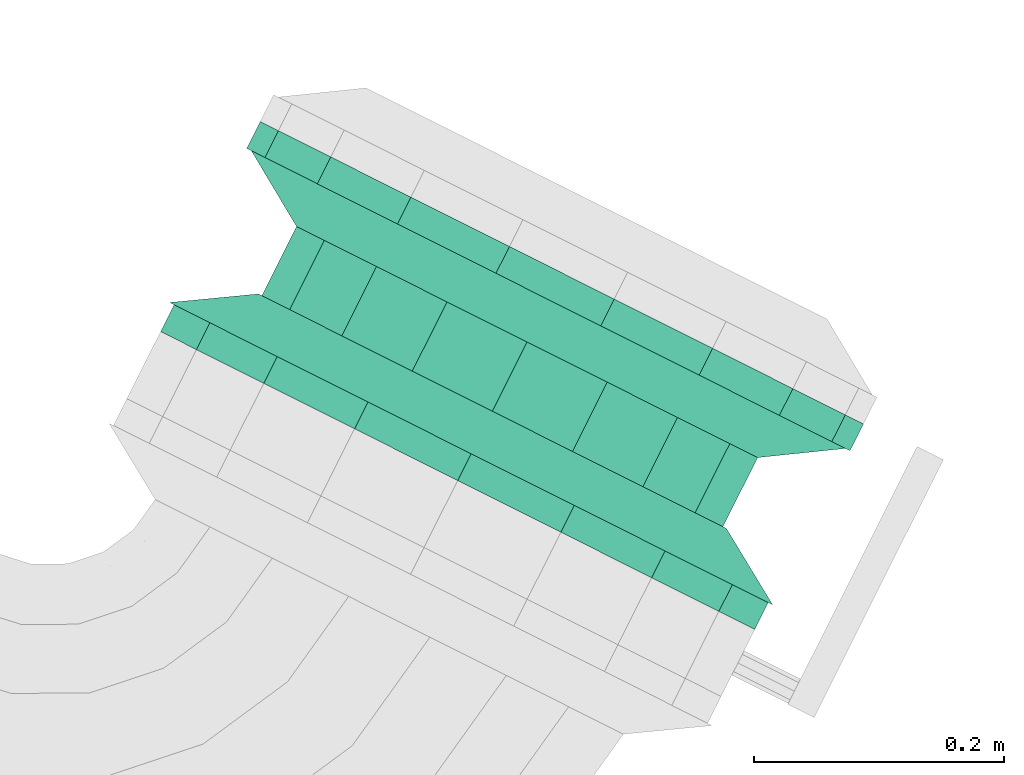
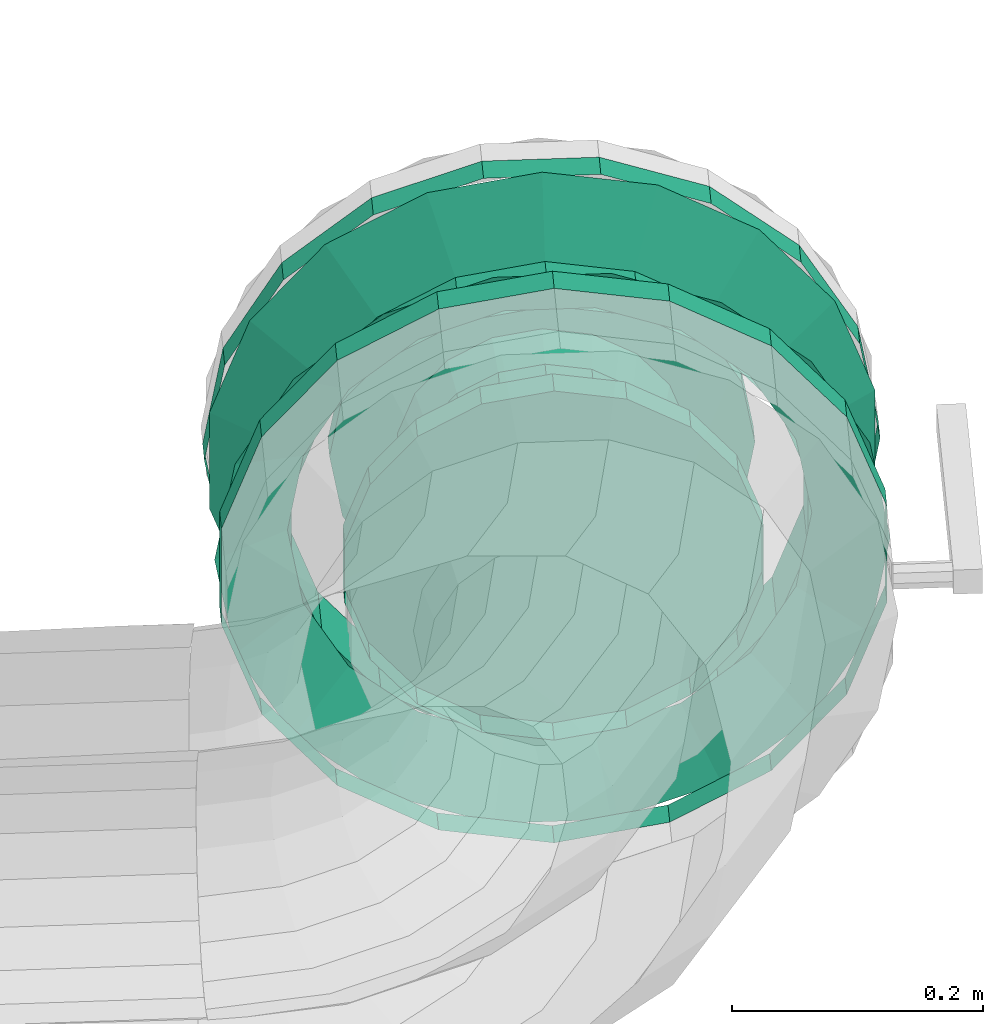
# One storey, part 55 of 152: 2 flow fittings, 1 flow segment.
"""IFC2X3 building model written with IfcOpenShell, lengths in metres."""

from ifc_helpers import new_model, si_unit, derived_unit, direction, frame, origin, place, context, subcontext, project, spatial, face_set, surface_model, source, transform, mapped, material, type_object, type_shapes, element, save


model = new_model("IFC2X3")

# Units and contexts
model_context = context("Model", 3, precision=5.2338327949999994e-05, world=origin(), true_north=direction((0.0, 1.0)))
body_context = subcontext(model_context, "Body", "Model", "MODEL_VIEW")
ifc_project = project(units=[si_unit("LENGTHUNIT", "METRE"), si_unit("AREAUNIT", "SQUARE_METRE"), si_unit("VOLUMEUNIT", "CUBIC_METRE"), si_unit("MASSUNIT", "GRAM", prefix="KILO"), si_unit("PLANEANGLEUNIT", "RADIAN"), derived_unit("THERMALTRANSMITTANCEUNIT", [(si_unit("MASSUNIT", "GRAM", prefix="KILO"), 1), (si_unit("THERMODYNAMICTEMPERATUREUNIT", "KELVIN"), -1), (si_unit("TIMEUNIT", "SECOND"), -3)])], contexts=[model_context])

# Site, building, storey
site_placement = place(None, frame((0.0, 0.0, 0.0), z_axis=(0.0, 0.0, 1.0), x_axis=(0.8939966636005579, -0.4480736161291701, 0.0)))
site = spatial("IfcSite", under=ifc_project, at=site_placement, Name="Default", CompositionType="ELEMENT")
building_placement = place(site_placement, origin())
building = spatial("IfcBuilding", under=site, at=building_placement, CompositionType="ELEMENT")
storey_placement = place(building_placement, frame((0.0, 0.0, 2.7499999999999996)))
storey = spatial("IfcBuildingStorey", under=building, at=storey_placement, Name="1. Obergeschoss", CompositionType="ELEMENT", Elevation=2.7499999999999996)

# Flow fitting
ifc_material = material(Name="IfcSurfaceStyle #9317")
distribution_element_type_1 = type_object("IfcDistributionElementType", Name="Flansch 303318:Flansch 303318", material=ifc_material)
shared_shape_1 = source(origin(), body_context, "Body", "SurfaceModel", [
    surface_model("IfcFaceBasedSurfaceModel", [(35.004528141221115, 9.184950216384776, 4.449999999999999), (34.9670598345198, 9.184950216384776, 4.456606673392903), (34.96434077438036, 9.222950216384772, 4.449136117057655), (35.00452814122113, 9.222950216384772, 4.442049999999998), (34.93411075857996, 9.184950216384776, 4.475629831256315), (34.929000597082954, 9.222950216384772, 4.46953977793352), (34.909655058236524, 9.184950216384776, 4.504774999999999), (34.902770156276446, 9.222950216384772, 4.5008), (34.896642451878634, 9.184950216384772, 4.54052684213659), (34.888813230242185, 9.222950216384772, 4.539146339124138), (34.896642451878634, 9.184950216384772, 4.578573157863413), (34.888813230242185, 9.222950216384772, 4.579953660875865), (34.90965505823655, 9.184950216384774, 4.614325), (34.902770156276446, 9.222950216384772, 4.6183), (34.934110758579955, 9.184950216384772, 4.643470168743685), (34.92900059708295, 9.22295021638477, 4.649560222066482), (34.967059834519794, 9.184950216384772, 4.6624933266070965), (34.964340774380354, 9.222950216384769, 4.669963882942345), (35.004528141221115, 9.184950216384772, 4.6691), (35.004528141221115, 9.222950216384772, 4.67705), (35.041996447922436, 9.184950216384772, 4.662493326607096), (35.044715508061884, 9.222950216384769, 4.669963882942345), (35.07494552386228, 9.184950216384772, 4.643470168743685), (35.080055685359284, 9.222950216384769, 4.649560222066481), (35.09940122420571, 9.184950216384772, 4.614324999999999), (35.106286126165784, 9.222950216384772, 4.6183), (35.11241383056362, 9.184950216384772, 4.578573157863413), (35.12024305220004, 9.222950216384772, 4.579953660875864), (35.1124138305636, 9.184950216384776, 4.540526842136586), (35.12024305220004, 9.222950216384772, 4.539146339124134), (35.09940122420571, 9.184950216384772, 4.504774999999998), (35.10628612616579, 9.222950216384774, 4.500799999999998), (35.07494552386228, 9.184950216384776, 4.4756298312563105), (35.080055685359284, 9.22295021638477, 4.469539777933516), (35.04199644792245, 9.184950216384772, 4.456606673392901), (35.044715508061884, 9.222950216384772, 4.4491361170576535), (34.83452814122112, 9.222950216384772, 4.5595500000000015), (34.844780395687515, 9.222950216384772, 4.617693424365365), (34.844780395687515, 9.246950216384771, 4.617693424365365), (34.83452814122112, 9.246950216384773, 4.5595500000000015), (34.874300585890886, 9.22295021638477, 4.668823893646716), (34.874300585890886, 9.246950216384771, 4.668823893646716), (34.91952814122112, 9.222950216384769, 4.706774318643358), (34.91952814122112, 9.24695021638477, 4.706774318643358), (34.975007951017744, 9.222950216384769, 4.7269673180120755), (34.975007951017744, 9.24695021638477, 4.7269673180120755), (35.0340483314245, 9.222950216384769, 4.726967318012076), (35.0340483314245, 9.24695021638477, 4.7269673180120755), (35.08952814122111, 9.222950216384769, 4.706774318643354), (35.08952814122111, 9.24695021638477, 4.706774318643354), (35.134755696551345, 9.222950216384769, 4.66882389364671), (35.134755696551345, 9.24695021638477, 4.66882389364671), (35.16427588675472, 9.22295021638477, 4.617693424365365), (35.16427588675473, 9.246950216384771, 4.617693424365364), (35.17452814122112, 9.222950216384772, 4.559549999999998), (35.17452814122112, 9.246950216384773, 4.559549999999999), (35.16427588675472, 9.222950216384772, 4.5014065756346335), (35.16427588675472, 9.246950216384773, 4.5014065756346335), (35.13475569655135, 9.222950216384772, 4.4502761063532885), (35.13475569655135, 9.246950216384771, 4.4502761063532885), (35.08952814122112, 9.222950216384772, 4.412325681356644), (35.08952814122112, 9.246950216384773, 4.412325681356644), (35.0340483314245, 9.222950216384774, 4.392132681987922), (35.0340483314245, 9.246950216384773, 4.392132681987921), (34.97500795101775, 9.222950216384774, 4.392132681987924), (34.97500795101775, 9.246950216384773, 4.392132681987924), (34.91952814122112, 9.222950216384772, 4.412325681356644), (34.91952814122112, 9.246950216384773, 4.412325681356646), (34.8743005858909, 9.222950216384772, 4.450276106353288), (34.8743005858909, 9.246950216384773, 4.450276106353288), (34.84478039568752, 9.222950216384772, 4.501406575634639), (34.84478039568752, 9.246950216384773, 4.501406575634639), (35.004528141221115, 9.22295021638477, 4.559549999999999), (35.00452814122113, 9.18495021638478, 4.35), (34.93285782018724, 9.18495021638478, 4.362637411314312), (34.912182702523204, 9.222950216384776, 4.3058329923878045), (35.00452814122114, 9.222950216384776, 4.289549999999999), (34.869831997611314, 9.184950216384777, 4.399025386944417), (34.830975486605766, 9.222950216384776, 4.352718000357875), (34.8230525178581, 9.184950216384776, 4.454775), (34.770701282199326, 9.222950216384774, 4.424550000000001), (34.79816167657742, 9.184950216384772, 4.523162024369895), (34.73863004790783, 9.22295021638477, 4.51266499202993), (34.798161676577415, 9.18495021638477, 4.595937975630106), (34.73863004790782, 9.222950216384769, 4.606435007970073), (34.82305251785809, 9.184950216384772, 4.664325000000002), (34.770701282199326, 9.22295021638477, 4.694550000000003), (34.86983199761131, 9.184950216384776, 4.720074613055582), (34.83097548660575, 9.222950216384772, 4.766381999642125), (34.93285782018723, 9.184950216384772, 4.756462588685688), (34.91218270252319, 9.222950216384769, 4.813267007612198), (35.00452814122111, 9.184950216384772, 4.769100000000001), (35.004528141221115, 9.222950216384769, 4.829550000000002), (35.07619846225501, 9.184950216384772, 4.756462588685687), (35.09687357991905, 9.222950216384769, 4.813267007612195), (35.13922428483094, 9.184950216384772, 4.72007461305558), (35.178080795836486, 9.222950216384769, 4.766381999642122), (35.18600376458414, 9.18495021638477, 4.664324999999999), (35.23835500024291, 9.222950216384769, 4.694549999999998), (35.21089460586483, 9.18495021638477, 4.595937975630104), (35.27042623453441, 9.222950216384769, 4.606435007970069), (35.21089460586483, 9.184950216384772, 4.523162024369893), (35.27042623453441, 9.222950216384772, 4.512664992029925), (35.18600376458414, 9.18495021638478, 4.454774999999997), (35.238355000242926, 9.222950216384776, 4.424549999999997), (35.139224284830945, 9.184950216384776, 4.399025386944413), (35.178080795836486, 9.222950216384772, 4.352718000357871), (35.07619846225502, 9.18495021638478, 4.362637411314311), (35.09687357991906, 9.222950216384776, 4.305832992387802), (34.734528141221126, 9.222950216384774, 4.5595500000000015), (34.75081113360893, 9.22295021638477, 4.651895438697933), (34.75081113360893, 9.246950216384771, 4.651895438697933), (34.734528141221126, 9.246950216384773, 4.559550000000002), (34.797696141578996, 9.22295021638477, 4.733102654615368), (34.797696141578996, 9.246950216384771, 4.733102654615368), (34.8695281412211, 9.222950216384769, 4.793376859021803), (34.8695281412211, 9.24695021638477, 4.793376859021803), (34.95764313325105, 9.222950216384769, 4.825448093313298), (34.95764313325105, 9.24695021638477, 4.825448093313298), (35.051413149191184, 9.222950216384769, 4.825448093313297), (35.051413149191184, 9.246950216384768, 4.825448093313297), (35.13952814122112, 9.222950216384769, 4.793376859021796), (35.13952814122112, 9.24695021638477, 4.793376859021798), (35.211360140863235, 9.22295021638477, 4.7331026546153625), (35.211360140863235, 9.24695021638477, 4.733102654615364), (35.25824514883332, 9.222950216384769, 4.651895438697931), (35.25824514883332, 9.24695021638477, 4.651895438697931), (35.274528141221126, 9.22295021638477, 4.559549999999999), (35.274528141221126, 9.246950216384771, 4.559549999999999), (35.258245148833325, 9.222950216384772, 4.4672045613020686), (35.258245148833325, 9.246950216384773, 4.467204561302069), (35.21136014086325, 9.222950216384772, 4.3859973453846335), (35.21136014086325, 9.246950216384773, 4.3859973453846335), (35.13952814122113, 9.222950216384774, 4.325723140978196), (35.13952814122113, 9.246950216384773, 4.325723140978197), (35.051413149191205, 9.222950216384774, 4.2936519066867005), (35.051413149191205, 9.246950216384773, 4.2936519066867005), (34.95764313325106, 9.222950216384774, 4.293651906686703), (34.95764313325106, 9.246950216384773, 4.293651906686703), (34.869528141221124, 9.222950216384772, 4.325723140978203), (34.869528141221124, 9.246950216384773, 4.325723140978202), (34.797696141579, 9.222950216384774, 4.385997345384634), (34.797696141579, 9.246950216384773, 4.385997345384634), (34.75081113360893, 9.222950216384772, 4.467204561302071), (34.75081113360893, 9.246950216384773, 4.46720456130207)], [face_set([[[0, 1, 2, 3]], [[1, 4, 5, 2]], [[4, 6, 7, 5]], [[6, 8, 9, 7]], [[8, 10, 11, 9]], [[10, 12, 13, 11]], [[12, 14, 15, 13]], [[14, 16, 17, 15]], [[16, 18, 19, 17]], [[18, 20, 21, 19]], [[20, 22, 23, 21]], [[22, 24, 25, 23]], [[24, 26, 27, 25]], [[26, 28, 29, 27]], [[28, 30, 31, 29]], [[30, 32, 33, 31]], [[32, 34, 35, 33]], [[34, 0, 3, 35]], [[36, 37, 38, 39]], [[37, 40, 41, 38]], [[40, 42, 43, 41]], [[42, 44, 45, 43]], [[44, 46, 47, 45]], [[46, 48, 49, 47]], [[48, 50, 51, 49]], [[50, 52, 53, 51]], [[52, 54, 55, 53]], [[54, 56, 57, 55]], [[56, 58, 59, 57]], [[58, 60, 61, 59]], [[60, 62, 63, 61]], [[62, 64, 65, 63]], [[64, 66, 67, 65]], [[66, 68, 69, 67]], [[68, 70, 71, 69]], [[70, 36, 39, 71]], [[72, 37, 36]], [[72, 40, 37]], [[72, 42, 40]], [[72, 44, 42]], [[72, 46, 44]], [[72, 48, 46]], [[72, 50, 48]], [[72, 52, 50]], [[72, 54, 52]], [[72, 56, 54]], [[72, 58, 56]], [[72, 60, 58]], [[72, 62, 60]], [[72, 64, 62]], [[72, 66, 64]], [[72, 68, 66]], [[72, 70, 68]], [[72, 36, 70]], [[73, 74, 75, 76]], [[74, 77, 78, 75]], [[77, 79, 80, 78]], [[79, 81, 82, 80]], [[81, 83, 84, 82]], [[83, 85, 86, 84]], [[85, 87, 88, 86]], [[87, 89, 90, 88]], [[89, 91, 92, 90]], [[91, 93, 94, 92]], [[93, 95, 96, 94]], [[95, 97, 98, 96]], [[97, 99, 100, 98]], [[99, 101, 102, 100]], [[101, 103, 104, 102]], [[103, 105, 106, 104]], [[105, 107, 108, 106]], [[107, 73, 76, 108]], [[109, 110, 111, 112]], [[110, 113, 114, 111]], [[113, 115, 116, 114]], [[115, 117, 118, 116]], [[117, 119, 120, 118]], [[119, 121, 122, 120]], [[121, 123, 124, 122]], [[123, 125, 126, 124]], [[125, 127, 128, 126]], [[127, 129, 130, 128]], [[129, 131, 132, 130]], [[131, 133, 134, 132]], [[133, 135, 136, 134]], [[135, 137, 138, 136]], [[137, 139, 140, 138]], [[139, 141, 142, 140]], [[141, 143, 144, 142]], [[143, 109, 112, 144]]])]),
])
type_shapes(distribution_element_type_1, [shared_shape_1])
flow_fitting_1_placement = place(storey_placement, frame((0.0, 0.0, -2.7499999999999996)))
element("IfcFlowFitting", 1, at=flow_fitting_1_placement, inside=storey, type_object=distribution_element_type_1, material=ifc_material, Name="Flansch", ObjectType="Flansch", context=body_context, shape_type="MappedRepresentation", body=[
    mapped(shared_shape_1, transform((0.0, 0.0, 0.0), scale=1.0)),
])

# Flow segment
distribution_element_type_2 = type_object("IfcDistributionElementType", Name="Stahlrohr nach DIN 2448 303345:Stahlrohr nach DIN 2448 303345", material=ifc_material)
shared_shape_2 = source(origin(), body_context, "Body", "SurfaceModel", [
    surface_model("IfcFaceBasedSurfaceModel", [(35.00452814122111, 9.122986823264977, 4.669099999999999), (35.041996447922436, 9.122986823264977, 4.662493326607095), (35.04199644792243, 9.184950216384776, 4.662493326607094), (35.004528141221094, 9.184950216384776, 4.6690999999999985), (35.07494552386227, 9.122986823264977, 4.643470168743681), (35.07494552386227, 9.184950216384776, 4.643470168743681), (35.099401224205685, 9.122986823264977, 4.614325), (35.099401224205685, 9.184950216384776, 4.614325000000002), (35.1124138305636, 9.122986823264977, 4.57857315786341), (35.1124138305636, 9.184950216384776, 4.57857315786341), (35.112413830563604, 9.122986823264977, 4.540526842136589), (35.112413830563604, 9.184950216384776, 4.540526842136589), (35.099401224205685, 9.122986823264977, 4.5047749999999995), (35.099401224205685, 9.184950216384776, 4.504775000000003), (35.07494552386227, 9.122986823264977, 4.475629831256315), (35.07494552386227, 9.184950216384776, 4.475629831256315), (35.04199644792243, 9.122986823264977, 4.456606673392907), (35.041996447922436, 9.184950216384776, 4.456606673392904), (35.00452814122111, 9.122986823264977, 4.449999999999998), (35.00452814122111, 9.184950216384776, 4.449999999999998), (34.96705983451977, 9.122986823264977, 4.456606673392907), (34.96705983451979, 9.184950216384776, 4.456606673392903), (34.93411075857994, 9.122986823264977, 4.475629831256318), (34.93411075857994, 9.184950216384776, 4.475629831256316), (34.909655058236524, 9.122986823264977, 4.504775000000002), (34.90965505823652, 9.184950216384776, 4.5047749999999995), (34.89664245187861, 9.122986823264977, 4.540526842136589), (34.89664245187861, 9.184950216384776, 4.540526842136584), (34.89664245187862, 9.122986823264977, 4.578573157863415), (34.89664245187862, 9.184950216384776, 4.57857315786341), (34.909655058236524, 9.122986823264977, 4.614325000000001), (34.90965505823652, 9.184950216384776, 4.614324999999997), (34.93411075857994, 9.122986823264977, 4.6434701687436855), (34.93411075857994, 9.184950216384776, 4.643470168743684), (34.96705983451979, 9.122986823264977, 4.662493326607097), (34.96705983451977, 9.184950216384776, 4.6624933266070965), (35.00452814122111, 9.122986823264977, 4.7691), (35.07619846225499, 9.122986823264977, 4.756462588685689), (35.076198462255, 9.184950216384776, 4.756462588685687), (35.004528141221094, 9.184950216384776, 4.769100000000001), (35.139224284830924, 9.122986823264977, 4.720074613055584), (35.13922428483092, 9.184950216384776, 4.720074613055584), (35.18600376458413, 9.122986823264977, 4.6643249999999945), (35.18600376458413, 9.184950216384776, 4.664324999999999), (35.21089460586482, 9.122986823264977, 4.595937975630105), (35.21089460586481, 9.184950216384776, 4.59593797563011), (35.210894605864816, 9.122986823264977, 4.523162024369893), (35.210894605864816, 9.184950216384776, 4.523162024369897), (35.186003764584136, 9.122986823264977, 4.454774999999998), (35.18600376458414, 9.184950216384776, 4.454775), (35.13922428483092, 9.122986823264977, 4.399025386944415), (35.139224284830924, 9.184950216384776, 4.399025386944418), (35.076198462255, 9.122986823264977, 4.362637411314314), (35.07619846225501, 9.184950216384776, 4.3626374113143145), (35.004528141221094, 9.122986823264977, 4.3500000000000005), (35.00452814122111, 9.184950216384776, 4.349999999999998), (34.93285782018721, 9.122986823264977, 4.362637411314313), (34.93285782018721, 9.184950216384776, 4.362637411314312), (34.869831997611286, 9.122986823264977, 4.399025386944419), (34.8698319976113, 9.184950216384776, 4.399025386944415), (34.823052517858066, 9.122986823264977, 4.454775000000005), (34.823052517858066, 9.184950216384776, 4.454774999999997), (34.7981616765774, 9.122986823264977, 4.523162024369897), (34.798161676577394, 9.184950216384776, 4.523162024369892), (34.7981616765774, 9.122986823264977, 4.5959379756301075), (34.798161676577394, 9.184950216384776, 4.595937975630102), (34.82305251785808, 9.122986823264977, 4.664325), (34.823052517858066, 9.184950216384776, 4.664324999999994), (34.869831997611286, 9.122986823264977, 4.720074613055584), (34.869831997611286, 9.184950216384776, 4.720074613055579), (34.932857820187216, 9.122986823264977, 4.756462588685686), (34.93285782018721, 9.184950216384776, 4.756462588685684)], [face_set([[[0, 1, 2, 3]], [[1, 4, 5, 2]], [[4, 6, 7, 5]], [[6, 8, 9, 7]], [[8, 10, 11, 9]], [[10, 12, 13, 11]], [[12, 14, 15, 13]], [[14, 16, 17, 15]], [[16, 18, 19, 17]], [[18, 20, 21, 19]], [[20, 22, 23, 21]], [[22, 24, 25, 23]], [[24, 26, 27, 25]], [[26, 28, 29, 27]], [[28, 30, 31, 29]], [[30, 32, 33, 31]], [[32, 34, 35, 33]], [[34, 0, 3, 35]], [[36, 37, 38, 39]], [[37, 40, 41, 38]], [[40, 42, 43, 41]], [[42, 44, 45, 43]], [[44, 46, 47, 45]], [[46, 48, 49, 47]], [[48, 50, 51, 49]], [[50, 52, 53, 51]], [[52, 54, 55, 53]], [[54, 56, 57, 55]], [[56, 58, 59, 57]], [[58, 60, 61, 59]], [[60, 62, 63, 61]], [[62, 64, 65, 63]], [[64, 66, 67, 65]], [[66, 68, 69, 67]], [[68, 70, 71, 69]], [[70, 36, 39, 71]]])]),
])
type_shapes(distribution_element_type_2, [shared_shape_2])
flow_segment_placement = place(storey_placement, frame((0.0, 0.0, -2.7499999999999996)))
element("IfcFlowSegment", 2, at=flow_segment_placement, inside=storey, type_object=distribution_element_type_2, material=ifc_material, Name="Stahlrohr nach DIN 2448", ObjectType="Stahlrohr nach DIN 2448", context=body_context, shape_type="MappedRepresentation", body=[
    mapped(shared_shape_2, transform((0.0, 0.0, 0.0), scale=1.0)),
])

# Flow fitting
distribution_element_type_3 = type_object("IfcDistributionElementType", Name="Flansch 303626:Flansch 303626", material=ifc_material)
shared_shape_3 = source(origin(), body_context, "Body", "SurfaceModel", [
    surface_model("IfcFaceBasedSurfaceModel", [(34.89497814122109, 9.122986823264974, 4.559549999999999), (34.901584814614, 9.122986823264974, 4.5220816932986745), (34.89411425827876, 9.084986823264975, 4.5193626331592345), (34.8870281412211, 9.084986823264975, 4.559549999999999), (34.92060797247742, 9.122986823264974, 4.489132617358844), (34.91451791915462, 9.084986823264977, 4.484022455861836), (34.9497531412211, 9.122986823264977, 4.464676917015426), (34.945778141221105, 9.08498682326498, 4.457792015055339), (34.98550498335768, 9.12298682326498, 4.4516643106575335), (34.98412448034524, 9.084986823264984, 4.443835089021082), (35.0235512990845, 9.122986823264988, 4.451664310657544), (35.024931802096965, 9.08498682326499, 4.4438350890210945), (35.05930314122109, 9.122986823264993, 4.464676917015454), (35.0632781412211, 9.084986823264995, 4.457792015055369), (35.088448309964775, 9.122986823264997, 4.489132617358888), (35.094538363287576, 9.084986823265, 4.484022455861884), (35.10747146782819, 9.122986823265, 4.522081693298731), (35.11494202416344, 9.084986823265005, 4.519362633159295), (35.11407814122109, 9.122986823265, 4.55955000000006), (35.122028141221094, 9.084986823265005, 4.5595500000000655), (35.10747146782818, 9.122986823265, 4.597018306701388), (35.11494202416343, 9.084986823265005, 4.599737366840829), (35.088448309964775, 9.122986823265, 4.629967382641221), (35.09453836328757, 9.084986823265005, 4.635077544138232), (35.05930314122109, 9.122986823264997, 4.654423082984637), (35.0632781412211, 9.084986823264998, 4.661307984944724), (35.0235512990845, 9.122986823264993, 4.667435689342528), (35.024931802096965, 9.084986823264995, 4.675264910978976), (34.98550498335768, 9.122986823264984, 4.6674356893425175), (34.98412448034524, 9.084986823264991, 4.6752649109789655), (34.949753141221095, 9.12298682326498, 4.654423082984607), (34.945778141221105, 9.08498682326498, 4.661307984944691), (34.92060797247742, 9.122986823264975, 4.629967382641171), (34.914517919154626, 9.08498682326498, 4.635077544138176), (34.901584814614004, 9.122986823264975, 4.597018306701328), (34.894114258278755, 9.084986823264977, 4.599737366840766), (35.004528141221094, 9.084986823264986, 4.389550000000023), (35.062671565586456, 9.084986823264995, 4.399802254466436), (35.062671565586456, 9.060986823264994, 4.3998022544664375), (35.004528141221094, 9.060986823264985, 4.389550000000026), (35.11380203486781, 9.084986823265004, 4.42932244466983), (35.11380203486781, 9.060986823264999, 4.429322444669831), (35.15175245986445, 9.084986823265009, 4.474550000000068), (35.15175245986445, 9.060986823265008, 4.474550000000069), (35.17194545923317, 9.08498682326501, 4.530029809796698), (35.17194545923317, 9.060986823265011, 4.530029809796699), (35.171945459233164, 9.084986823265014, 4.589070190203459), (35.17194545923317, 9.06098682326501, 4.589070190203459), (35.151752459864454, 9.084986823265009, 4.644550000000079), (35.151752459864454, 9.06098682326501, 4.64455000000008), (35.11380203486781, 9.084986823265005, 4.689777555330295), (35.11380203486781, 9.060986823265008, 4.689777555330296), (35.06267156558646, 9.084986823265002, 4.719297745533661), (35.06267156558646, 9.060986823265, 4.719297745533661), (35.004528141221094, 9.084986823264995, 4.729550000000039), (35.004528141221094, 9.06098682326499, 4.7295500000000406), (34.94638471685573, 9.084986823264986, 4.719297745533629), (34.946384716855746, 9.060986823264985, 4.71929774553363), (34.89525424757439, 9.084986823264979, 4.689777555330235), (34.8952542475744, 9.06098682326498, 4.689777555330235), (34.85730382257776, 9.084986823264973, 4.644549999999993), (34.85730382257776, 9.06098682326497, 4.6445499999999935), (34.83711082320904, 9.084986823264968, 4.589070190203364), (34.83711082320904, 9.060986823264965, 4.589070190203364), (34.83711082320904, 9.084986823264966, 4.530029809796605), (34.83711082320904, 9.060986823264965, 4.530029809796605), (34.857303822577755, 9.08498682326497, 4.474549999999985), (34.857303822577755, 9.060986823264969, 4.474549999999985), (34.895254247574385, 9.084986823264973, 4.429322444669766), (34.895254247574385, 9.06098682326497, 4.429322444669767), (34.94638471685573, 9.084986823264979, 4.399802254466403), (34.94638471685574, 9.060986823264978, 4.399802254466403), (35.004528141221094, 9.08498682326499, 4.559550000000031), (34.79497814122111, 9.122986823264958, 4.559549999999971), (34.807615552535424, 9.122986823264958, 4.487879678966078), (34.75081113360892, 9.084986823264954, 4.467204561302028), (34.73452814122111, 9.084986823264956, 4.559549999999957), (34.84400352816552, 9.122986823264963, 4.4248538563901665), (34.79769614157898, 9.084986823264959, 4.385997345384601), (34.8997531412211, 9.12298682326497, 4.378074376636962), (34.8695281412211, 9.084986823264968, 4.325723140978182), (34.968140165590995, 9.122986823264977, 4.353183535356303), (34.957643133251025, 9.084986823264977, 4.293651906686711), (35.0409161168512, 9.122986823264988, 4.353183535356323), (35.05141314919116, 9.084986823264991, 4.293651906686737), (35.10930314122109, 9.122986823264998, 4.378074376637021), (35.139528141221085, 9.084986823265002, 4.325723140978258), (35.16505275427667, 9.122986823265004, 4.424853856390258), (35.21136014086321, 9.084986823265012, 4.385997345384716), (35.20144072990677, 9.122986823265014, 4.487879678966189), (35.25824514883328, 9.084986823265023, 4.46720456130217), (35.21407814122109, 9.122986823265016, 4.559550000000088), (35.27452814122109, 9.084986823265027, 4.559550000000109), (35.20144072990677, 9.122986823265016, 4.631220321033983), (35.25824514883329, 9.084986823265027, 4.651895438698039), (35.165052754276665, 9.12298682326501, 4.694246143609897), (35.21136014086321, 9.084986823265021, 4.7331026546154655), (35.10930314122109, 9.122986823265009, 4.741025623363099), (35.139528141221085, 9.084986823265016, 4.793376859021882), (35.04091611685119, 9.122986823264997, 4.76591646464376), (35.05141314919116, 9.084986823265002, 4.825448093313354), (34.96814016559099, 9.122986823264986, 4.7659164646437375), (34.957643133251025, 9.08498682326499, 4.825448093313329), (34.8997531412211, 9.122986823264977, 4.741025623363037), (34.8695281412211, 9.084986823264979, 4.793376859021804), (34.84400352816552, 9.122986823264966, 4.694246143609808), (34.79769614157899, 9.084986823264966, 4.733102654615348), (34.80761555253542, 9.122986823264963, 4.631220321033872), (34.75081113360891, 9.084986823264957, 4.651895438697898), (35.00452814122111, 9.08498682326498, 4.289550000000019), (35.09687357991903, 9.084986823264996, 4.305832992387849), (35.096873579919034, 9.060986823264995, 4.30583299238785), (35.00452814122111, 9.060986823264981, 4.289550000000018), (35.17808079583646, 9.084986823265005, 4.352718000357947), (35.178080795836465, 9.060986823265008, 4.352718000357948), (35.23835500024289, 9.08498682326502, 4.42455000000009), (35.23835500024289, 9.060986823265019, 4.42455000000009), (35.27042623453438, 9.084986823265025, 4.512664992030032), (35.27042623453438, 9.060986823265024, 4.512664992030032), (35.27042623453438, 9.084986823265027, 4.60643500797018), (35.27042623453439, 9.060986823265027, 4.60643500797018), (35.23835500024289, 9.084986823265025, 4.694550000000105), (35.23835500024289, 9.060986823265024, 4.694550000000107), (35.17808079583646, 9.084986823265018, 4.766381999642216), (35.17808079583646, 9.060986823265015, 4.766381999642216), (35.09687357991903, 9.084986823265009, 4.813267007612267), (35.096873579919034, 9.06098682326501, 4.813267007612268), (35.004528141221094, 9.084986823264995, 4.8295500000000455), (35.004528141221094, 9.060986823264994, 4.8295500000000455), (34.912182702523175, 9.084986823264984, 4.813267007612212), (34.912182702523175, 9.060986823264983, 4.813267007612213), (34.830975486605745, 9.084986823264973, 4.766381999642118), (34.830975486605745, 9.06098682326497, 4.766381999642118), (34.7707012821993, 9.08498682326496, 4.694549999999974), (34.770701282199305, 9.060986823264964, 4.694549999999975), (34.73863004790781, 9.084986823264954, 4.606435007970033), (34.73863004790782, 9.060986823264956, 4.606435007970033), (34.73863004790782, 9.084986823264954, 4.512664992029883), (34.73863004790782, 9.060986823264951, 4.512664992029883), (34.77070128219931, 9.084986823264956, 4.424549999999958), (34.77070128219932, 9.060986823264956, 4.424549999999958), (34.83097548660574, 9.08498682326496, 4.352718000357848), (34.830975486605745, 9.060986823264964, 4.352718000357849), (34.912182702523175, 9.084986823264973, 4.305832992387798), (34.912182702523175, 9.06098682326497, 4.305832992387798)], [face_set([[[0, 1, 2, 3]], [[1, 4, 5, 2]], [[4, 6, 7, 5]], [[6, 8, 9, 7]], [[8, 10, 11, 9]], [[10, 12, 13, 11]], [[12, 14, 15, 13]], [[14, 16, 17, 15]], [[16, 18, 19, 17]], [[18, 20, 21, 19]], [[20, 22, 23, 21]], [[22, 24, 25, 23]], [[24, 26, 27, 25]], [[26, 28, 29, 27]], [[28, 30, 31, 29]], [[30, 32, 33, 31]], [[32, 34, 35, 33]], [[34, 0, 3, 35]], [[36, 37, 38, 39]], [[37, 40, 41, 38]], [[40, 42, 43, 41]], [[42, 44, 45, 43]], [[44, 46, 47, 45]], [[46, 48, 49, 47]], [[48, 50, 51, 49]], [[50, 52, 53, 51]], [[52, 54, 55, 53]], [[54, 56, 57, 55]], [[56, 58, 59, 57]], [[58, 60, 61, 59]], [[60, 62, 63, 61]], [[62, 64, 65, 63]], [[64, 66, 67, 65]], [[66, 68, 69, 67]], [[68, 70, 71, 69]], [[70, 36, 39, 71]], [[72, 37, 36]], [[72, 40, 37]], [[72, 42, 40]], [[72, 44, 42]], [[72, 46, 44]], [[72, 48, 46]], [[72, 50, 48]], [[72, 52, 50]], [[72, 54, 52]], [[72, 56, 54]], [[72, 58, 56]], [[72, 60, 58]], [[72, 62, 60]], [[72, 64, 62]], [[72, 66, 64]], [[72, 68, 66]], [[72, 70, 68]], [[72, 36, 70]], [[73, 74, 75, 76]], [[74, 77, 78, 75]], [[77, 79, 80, 78]], [[79, 81, 82, 80]], [[81, 83, 84, 82]], [[83, 85, 86, 84]], [[85, 87, 88, 86]], [[87, 89, 90, 88]], [[89, 91, 92, 90]], [[91, 93, 94, 92]], [[93, 95, 96, 94]], [[95, 97, 98, 96]], [[97, 99, 100, 98]], [[99, 101, 102, 100]], [[101, 103, 104, 102]], [[103, 105, 106, 104]], [[105, 107, 108, 106]], [[107, 73, 76, 108]], [[109, 110, 111, 112]], [[110, 113, 114, 111]], [[113, 115, 116, 114]], [[115, 117, 118, 116]], [[117, 119, 120, 118]], [[119, 121, 122, 120]], [[121, 123, 124, 122]], [[123, 125, 126, 124]], [[125, 127, 128, 126]], [[127, 129, 130, 128]], [[129, 131, 132, 130]], [[131, 133, 134, 132]], [[133, 135, 136, 134]], [[135, 137, 138, 136]], [[137, 139, 140, 138]], [[139, 141, 142, 140]], [[141, 143, 144, 142]], [[143, 109, 112, 144]]])]),
])
type_shapes(distribution_element_type_3, [shared_shape_3])
flow_fitting_2_placement = place(storey_placement, frame((0.0, 0.0, -2.7499999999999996)))
element("IfcFlowFitting", 3, at=flow_fitting_2_placement, inside=storey, type_object=distribution_element_type_3, material=ifc_material, Name="Flansch", ObjectType="Flansch", context=body_context, shape_type="MappedRepresentation", body=[
    mapped(shared_shape_3, transform((0.0, 0.0, 0.0), scale=1.0)),
])

save(model, "model.ifc")
